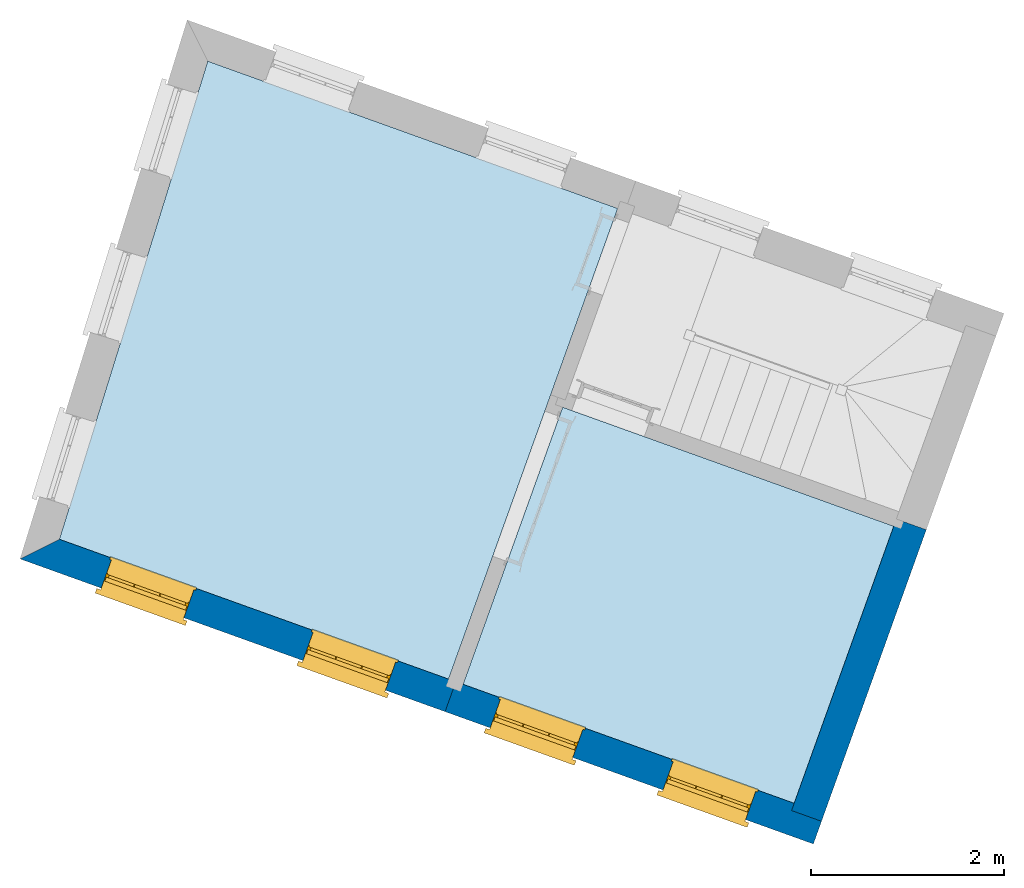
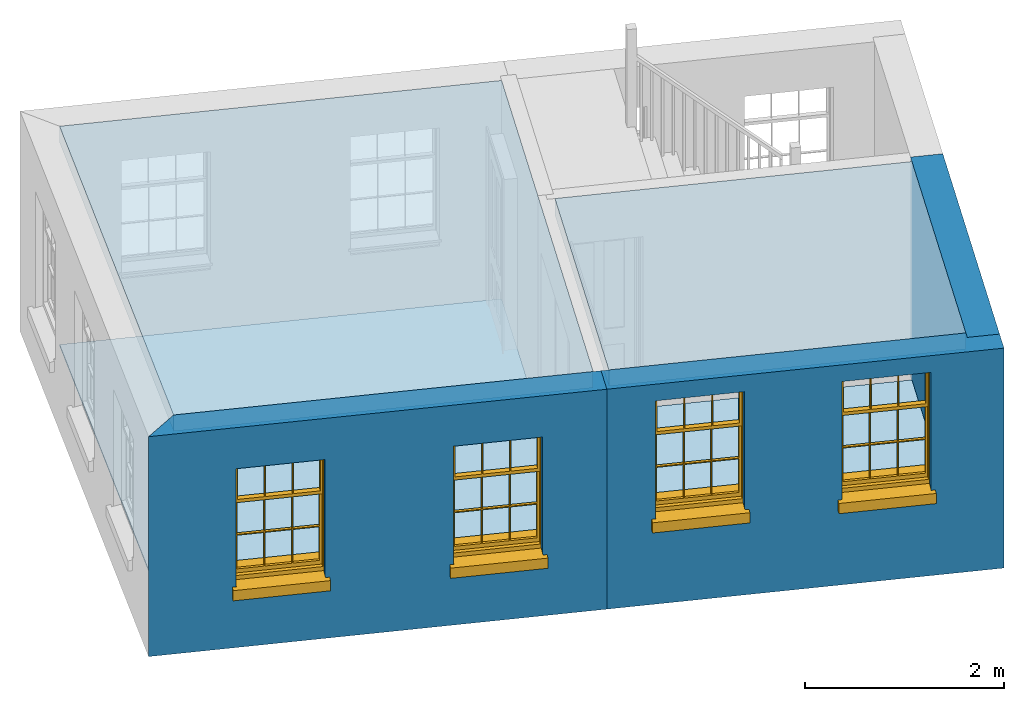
# One storey, part 1 of 4: 4 slabs, 4 windows, 3 walls, 4 openings.
"""IFC4 building model written with IfcOpenShell, lengths in metres."""

from ifc_helpers import new_model, si_unit, frame, origin, origin_with_axes, place, context, subcontext, project, spatial, polyline, outline, extrude, faceted_brep, source, transform, mapped, material, layer, layer_set, layer_usage, type_object, type_shapes, element, fill, save


model = new_model("IFC4")

# Units and contexts
model_context = context("Model", 3, world=origin_with_axes())
body_context = subcontext(model_context, "Body", "Model", "MODEL_VIEW")
ifc_project = project(units=[si_unit("PLANEANGLEUNIT", "RADIAN"), si_unit("MASSUNIT", "GRAM", prefix="KILO"), si_unit("FORCEUNIT", "NEWTON", prefix="KILO"), si_unit("LENGTHUNIT", "METRE"), si_unit("AREAUNIT", "SQUARE_METRE"), si_unit("VOLUMEUNIT", "CUBIC_METRE")], contexts=[model_context, model_context])

# Sites, building, storey
site_1_placement = place(None, origin_with_axes())
site_1 = spatial("IfcSite", under=ifc_project, at=site_1_placement, Name="Tamar")
site_2_placement = place(site_1_placement, origin_with_axes())
site_2 = spatial("IfcSite", under=site_1, at=site_2_placement, Name="Site plot-21", CompositionType="ELEMENT")
building_placement = place(None, origin_with_axes())
building = spatial("IfcBuilding", under=site_2, at=building_placement, Name="Building plot-21", CompositionType="ELEMENT")
storey_placement = place(None, frame((0.0, 0.0, 29.6), z_axis=(0.0, 0.0, 1.0), x_axis=(1.0, 0.0, 0.0)))
storey = spatial("IfcBuildingStorey", under=building, at=storey_placement, Name="plot-21 1", CompositionType="ELEMENT", Elevation=29.6)

# Slabs
slab_1_placement = place(storey_placement, frame((258.148824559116, 284.098444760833, 2.5)))
element("IfcSlab", 1, at=slab_1_placement, inside=storey, Name="My Slab", ObjectType="Slab", PredefinedType="FLOOR", context=body_context, shape_type="SweptSolid", body=[
    extrude(outline(polyline([(0.0, 0.0), (-1.03236079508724, -2.87298841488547), (2.40093777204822, -4.10668738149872), (3.43329856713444, -1.23369896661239), (0.0, 0.0)])), origin_with_axes(), (0.0, 0.0, 1.0), 0.2),
])
slab_2_placement = place(storey_placement, frame((258.148824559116, 284.098444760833, 0.0)))
element("IfcSlab", 2, at=slab_2_placement, inside=storey, Name="My Slab", ObjectType="Slab", PredefinedType="FLOOR", context=body_context, shape_type="SweptSolid", body=[
    extrude(outline(polyline([(0.0, 0.0), (-1.03236079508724, -2.87298841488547), (2.40093777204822, -4.10668738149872), (3.43329856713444, -1.23369896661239), (0.0, 0.0)])), origin_with_axes(), (0.0, 0.0, 1.0), 0.02),
])
slab_3_placement = place(storey_placement, frame((256.965889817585, 281.279562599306, 2.5)))
element("IfcSlab", 3, at=slab_3_placement, inside=storey, Name="My Slab", ObjectType="Slab", PredefinedType="FLOOR", context=body_context, shape_type="SweptSolid", body=[
    extrude(outline(polyline([(0.0, 0.0), (1.75357301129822, 4.88007193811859), (-2.49721772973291, 6.40752317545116), (-4.03548595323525, 1.45008502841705), (0.0, 0.0)])), origin_with_axes(), (0.0, 0.0, 1.0), 0.2),
])
slab_4_placement = place(storey_placement, frame((256.965889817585, 281.279562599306, 0.0)))
element("IfcSlab", 4, at=slab_4_placement, inside=storey, Name="My Slab", ObjectType="Slab", PredefinedType="FLOOR", context=body_context, shape_type="SweptSolid", body=[
    extrude(outline(polyline([(0.0, 0.0), (1.75357301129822, 4.88007193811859), (-2.49721772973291, 6.40752317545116), (-4.03548595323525, 1.45008502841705), (0.0, 0.0)])), origin_with_axes(), (0.0, 0.0, 1.0), 0.02),
])

# Wall, openings, windows
ifc_material_1 = material(Name="Masonry")
ifc_layer_1 = layer(ifc_material_1, 0.33, ventilated=False)
ifc_layer_set_1 = layer_set([ifc_layer_1], Name="exterior_0.08_0.25")
ifc_layer_usage_1 = layer_usage(ifc_layer_set_1, "AXIS2", "POSITIVE", -0.25)
wall_type_1 = type_object("IfcWallType", Name="exterior_0.08_0.25", PredefinedType="SOLIDWALL", material=ifc_layer_set_1)
wall_1_placement = place(storey_placement, frame((252.8313121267, 282.680246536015, 0.0), z_axis=(0.0, 0.0, 1.0), x_axis=(0.941087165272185, -0.338164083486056, 0.0)))
wall_1 = element("IfcWall", 5, at=wall_1_placement, inside=storey, type_object=wall_type_1, material=ifc_layer_usage_1, Name="exterior", context=body_context, shape_type="SweptSolid", body=[
    extrude(outline(polyline([(0.0765482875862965, 0.0799999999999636), (-0.239213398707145, -0.249999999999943), (4.44465899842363, -0.250000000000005), (4.44465899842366, 0.0799999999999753), (0.0765482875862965, 0.0799999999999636)])), origin_with_axes(), (0.0, 0.0, 1.0), 2.7),
])
opening_1_placement = place(wall_1_placement, frame((0.65616474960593, 0.0, 0.75)))
opening_1 = element("IfcOpeningElement", 6, at=opening_1_placement, cuts=wall_1, Name="My Opening", ObjectType="Opening", context=body_context, shape_type="SweptSolid", body=[
    extrude(outline(polyline([(0.0, -0.270000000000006), (0.909999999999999, -0.27000000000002), (0.909999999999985, 1.09999999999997), (-1.40998324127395e-14, 1.09999999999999), (0.0, -0.270000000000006)])), origin_with_axes(), (0.0, 0.0, 1.0), 1.445),
])
opening_2_placement = place(wall_1_placement, frame((2.87849424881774, 0.0, 0.75)))
opening_2 = element("IfcOpeningElement", 7, at=opening_2_placement, cuts=wall_1, Name="My Opening", ObjectType="Opening", context=body_context, shape_type="SweptSolid", body=[
    extrude(outline(polyline([(0.0, -0.270000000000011), (0.910000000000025, -0.270000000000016), (0.910000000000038, 1.09999999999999), (-1.37667655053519e-14, 1.09999999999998), (0.0, -0.270000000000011)])), origin_with_axes(), (0.0, 0.0, 1.0), 1.445),
])
window_type = type_object("IfcWindowType", Name="sash_shorter", PartitioningType="DOUBLE_PANEL_HORIZONTAL", PredefinedType="NOTDEFINED")
shared_shape = source(origin(), body_context, "Body", "Brep", [
    faceted_brep([(0.876875, 0.145, 0.999097), (0.876875, 0.145, 1.411875), (0.9, 0.145, 1.435), (0.033125, 0.145, 1.411875), (0.033125, 0.145, 0.999097), (0.01, 0.145, 1.435), (0.033125, 0.115, 1.411875), (0.01, 0.115, 1.435), (0.033125, 0.115, 0.999097), (0.876875, 0.115, 1.411875), (0.876875, 0.115, 0.999097), (0.9, 0.115, 1.435), (0.033125, 0.145, 0.960972), (0.01, 0.145, 0.960972), (0.033125, 0.145, 0.548195), (0.876875, 0.145, 0.960972), (0.876875, 0.145, 0.548195), (0.9, 0.145, 0.960972), (0.876875, 0.145, 0.538195), (0.876875, 0.145, 0.125417), (0.9, 0.145, 0.077167), (0.033125, 0.145, 0.125417), (0.033125, 0.145, 0.538195), (0.01, 0.145, 0.077167), (0.9, 0.115, 0.960972), (0.01, 0.115, 0.960972), (-0.0425, 0.0, 0.01), (-0.0425, -0.05, 0.001667), (0.0, 0.0, 0.01), (0.9525, 0.0, 0.01), (0.91, 0.0, 0.01), (0.9525, -0.05, 0.001667), (-0.02, 0.33, 0.077167), (0.0, 0.33, 0.077167), (-0.02, 0.36, 0.077167), (0.0, 0.19, 0.077167), (0.01, 0.19, 0.077167), (0.91, 0.19, 0.077167), (0.91, 0.33, 0.077167), (0.9, 0.19, 0.077167), (0.93, 0.33, 0.077167), (0.93, 0.36, 0.077167), (0.01, 0.145, 0.999097), (0.01, 0.175, 0.999097), (0.9, 0.145, 0.999097), (0.9, 0.175, 0.999097), (0.876875, 0.175, 0.125417), (0.876875, 0.175, 0.538195), (0.9, 0.175, 0.077167), (0.876875, 0.175, 0.548195), (0.876875, 0.175, 0.960972), (0.033125, 0.175, 0.125417), (0.01, 0.175, 0.077167), (0.033125, 0.175, 0.538195), (0.033125, 0.175, 0.960972), (0.033125, 0.175, 0.548195), (-0.02, 0.33, 0.052167), (-0.02, 0.36, 0.052167), (0.93, 0.36, 0.052167), (0.93, 0.33, 0.052167), (0.91, 0.33, 0.052167), (0.0, 0.33, 0.052167), (0.91, 0.1, 0.026667), (0.0, 0.1, 0.026667), (-0.0425, -0.05, -0.123333), (0.9525, -0.05, -0.123333), (-0.0425, 0.0, -0.123333), (0.9525, 0.0, -0.123333), (0.01, 0.19, 1.435), (0.9, 0.19, 1.435), (0.0, 0.19, 1.445), (0.91, 0.19, 1.445), (0.01, 0.1, 0.077167), (0.9, 0.1, 0.077167), (0.592292, 0.145, 0.125417), (0.592292, 0.175, 0.125417), (0.317708, 0.175, 0.125417), (0.317708, 0.145, 0.125417), (0.592292, 0.145, 0.548195), (0.317708, 0.145, 0.548195), (0.317708, 0.145, 0.538195), (0.592292, 0.145, 0.538195), (0.592292, 0.175, 0.548195), (0.317708, 0.175, 0.548195), (0.602292, 0.175, 0.548195), (0.602292, 0.145, 0.548195), (0.317708, 0.175, 0.538195), (0.307708, 0.175, 0.125417), (0.307708, 0.175, 0.538195), (0.602292, 0.175, 0.538195), (0.602292, 0.175, 0.125417), (0.592292, 0.175, 0.538195), (0.307708, 0.175, 0.548195), (0.317708, 0.175, 0.960972), (0.307708, 0.175, 0.960972), (0.602292, 0.175, 0.960972), (0.592292, 0.175, 0.960972), (0.307708, 0.145, 0.538195), (0.307708, 0.145, 0.125417), (0.307708, 0.145, 0.548195), (0.307708, 0.145, 0.960972), (0.592292, 0.145, 0.960972), (0.317708, 0.145, 0.960972), (0.602292, 0.145, 0.960972), (0.602292, 0.145, 0.538195), (0.602292, 0.145, 0.125417), (0.317708, 0.115, 1.411875), (0.307708, 0.115, 1.411875), (0.307708, 0.115, 0.999097), (0.317708, 0.115, 0.999097), (0.602292, 0.115, 1.411875), (0.592292, 0.115, 1.411875), (0.592292, 0.115, 0.999097), (0.602292, 0.115, 0.999097), (0.317708, 0.145, 0.999097), (0.307708, 0.145, 0.999097), (0.307708, 0.145, 1.411875), (0.317708, 0.145, 1.411875), (0.602292, 0.145, 0.999097), (0.592292, 0.145, 0.999097), (0.592292, 0.145, 1.411875), (0.602292, 0.145, 1.411875), (0.91, 0.1, 1.445), (0.9, 0.1, 1.435), (0.01, 0.1, 1.435), (0.0, 0.1, 1.445), (0.91, 0.0, 0.0), (0.0, 0.0, 0.0), (0.91, 0.33, 0.0), (0.0, 0.33, 0.0)], [[[0, 1, 2]], [[3, 4, 5]], [[6, 7, 8]], [[9, 10, 11]], [[12, 13, 14]], [[15, 16, 17]], [[18, 19, 20]], [[21, 22, 23]], [[24, 15, 17]], [[13, 12, 25]], [[26, 27, 28]], [[29, 30, 31]], [[32, 33, 34]], [[35, 36, 33]], [[37, 38, 39]], [[40, 41, 38]], [[42, 4, 43]], [[44, 45, 0]], [[46, 47, 48]], [[49, 50, 45]], [[51, 52, 53]], [[54, 55, 43]], [[38, 33, 36, 39]], [[41, 34, 33, 38]], [[56, 32, 34, 57]], [[57, 34, 41, 58]], [[58, 41, 40, 59]], [[57, 58, 60, 61]], [[52, 48, 39, 36]], [[62, 63, 28, 30]], [[27, 31, 30, 28]], [[27, 64, 65, 31]], [[66, 67, 65, 64]], [[2, 5, 68, 69]], [[68, 70, 71, 69]], [[20, 23, 72, 73]], [[73, 72, 63, 62]], [[74, 75, 76, 77]], [[78, 79, 80, 81]], [[78, 82, 83, 79]], [[16, 49, 84, 85]], [[86, 76, 87, 88]], [[89, 90, 75, 91]], [[92, 88, 53, 55]], [[82, 91, 86, 83]], [[93, 83, 92, 94]], [[95, 84, 82, 96]], [[89, 84, 49, 47]], [[97, 88, 87, 98]], [[22, 53, 88, 97]], [[81, 91, 75, 74]], [[80, 86, 91, 81]], [[77, 76, 86, 80]], [[99, 92, 55, 14]], [[100, 94, 92, 99]], [[101, 96, 82, 78]], [[79, 83, 93, 102]], [[85, 84, 95, 103]], [[104, 89, 47, 18]], [[105, 90, 89, 104]], [[104, 18, 16, 85]], [[80, 97, 98, 77]], [[104, 81, 74, 105]], [[103, 101, 78, 85]], [[99, 14, 22, 97]], [[102, 100, 99, 79]], [[106, 107, 108, 109]], [[110, 111, 112, 113]], [[114, 115, 116, 117]], [[118, 119, 120, 121]], [[107, 116, 115, 108]], [[111, 120, 119, 112]], [[109, 114, 117, 106]], [[113, 118, 121, 110]], [[85, 78, 81, 104]], [[84, 89, 91, 82]], [[83, 86, 88, 92]], [[79, 99, 97, 80]], [[109, 112, 119, 114]], [[102, 93, 96, 101]], [[106, 117, 120, 111]], [[98, 87, 51, 21]], [[6, 3, 116, 107]], [[110, 121, 1, 9]], [[19, 46, 90, 105]], [[26, 66, 64, 27]], [[29, 31, 65, 67]], [[25, 24, 112, 109]], [[11, 7, 106, 111]], [[75, 48, 52, 76]], [[43, 45, 96, 93]], [[45, 43, 114, 119]], [[5, 2, 120, 117]], [[24, 25, 102, 101]], [[42, 5, 4]], [[2, 44, 0]], [[49, 45, 48, 47]], [[52, 43, 55, 53]], [[14, 13, 23, 22]], [[20, 17, 16, 18]], [[24, 11, 10]], [[25, 8, 7]], [[8, 4, 3, 6]], [[9, 1, 0, 10]], [[15, 50, 49, 16]], [[18, 47, 46, 19]], [[21, 51, 53, 22]], [[14, 55, 54, 12]], [[44, 2, 69, 45]], [[68, 5, 42, 43]], [[36, 35, 70, 68]], [[39, 69, 71, 37]], [[62, 122, 123, 73]], [[63, 72, 124, 125]], [[8, 108, 115, 4]], [[113, 10, 0, 118]], [[94, 100, 12, 54]], [[17, 20, 73, 24]], [[72, 23, 13, 25]], [[52, 36, 68, 43]], [[69, 39, 48, 45]], [[11, 24, 73, 123]], [[7, 124, 72, 25]], [[23, 77, 98]], [[98, 21, 23]], [[105, 74, 20]], [[20, 19, 105]], [[20, 74, 77, 23]], [[113, 112, 24]], [[24, 10, 113]], [[25, 109, 108]], [[108, 8, 25]], [[110, 9, 11]], [[11, 111, 110]], [[7, 6, 107]], [[107, 106, 7]], [[5, 117, 116]], [[116, 3, 5]], [[121, 120, 2]], [[2, 1, 121]], [[11, 123, 124, 7]], [[122, 125, 124, 123]], [[43, 93, 94]], [[94, 54, 43]], [[96, 45, 95]], [[50, 95, 45]], [[15, 103, 95, 50]], [[48, 75, 90]], [[90, 46, 48]], [[87, 76, 52]], [[52, 51, 87]], [[103, 15, 24]], [[24, 101, 103]], [[100, 102, 25]], [[25, 12, 100]], [[115, 114, 43]], [[43, 4, 115]], [[118, 0, 45]], [[45, 119, 118]], [[71, 70, 125, 122]], [[70, 35, 63, 125]], [[122, 62, 37, 71]], [[126, 67, 66, 127]], [[60, 58, 59]], [[38, 60, 59, 40]], [[61, 56, 57]], [[32, 56, 61, 33]], [[61, 60, 128, 129]], [[62, 60, 38, 37]], [[126, 128, 60, 62]], [[33, 61, 63, 35]], [[61, 129, 127, 63]], [[128, 126, 127, 129]], [[28, 127, 66, 26]], [[63, 127, 28]], [[29, 67, 126, 30]], [[30, 126, 62]]]),
])
type_shapes(window_type, [shared_shape])
window_1_placement = place(storey_placement, frame((253.357516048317, 282.204261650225, 0.75), z_axis=(0.0, 0.0, 1.0), x_axis=(0.856389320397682, -0.307729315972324, 0.0)))
window_1 = element("IfcWindow", 8, at=window_1_placement, inside=storey, type_object=window_type, Name="living outside window", OverallHeight=1.445, OverallWidth=0.91, context=body_context, shape_type="MappedRepresentation", body=[
    mapped(shared_shape, transform((0.0, 0.0, 0.0), scale=1.0)),
])
fill(opening_1, window_1)
window_2_placement = place(storey_placement, frame((255.448921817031, 281.45274963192, 0.75), z_axis=(0.0, 0.0, 1.0), x_axis=(0.85638932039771, -0.307729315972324, 0.0)))
window_2 = element("IfcWindow", 9, at=window_2_placement, inside=storey, type_object=window_type, Name="living outside window", OverallHeight=1.445, OverallWidth=0.91, context=body_context, shape_type="MappedRepresentation", body=[
    mapped(shared_shape, transform((0.0, 0.0, 0.0), scale=1.0)),
])
fill(opening_2, window_2)

wall_2_placement = place(storey_placement, frame((257.014123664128, 281.177222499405, 0.0), z_axis=(0.0, 0.0, 1.0), x_axis=(0.94108716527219, -0.33816408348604, 0.0)))
wall_2 = element("IfcWall", 10, at=wall_2_placement, inside=storey, type_object=wall_type_1, material=ifc_layer_usage_1, Name="exterior", context=body_context, shape_type="SweptSolid", body=[
    extrude(outline(polyline([(4.7477713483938e-15, 0.0799999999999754), (-3.09101243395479e-14, -0.250000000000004), (4.05822589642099, -0.249999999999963), (4.05822589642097, 0.0799999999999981), (4.7477713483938e-15, 0.0799999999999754)])), origin_with_axes(), (0.0, 0.0, 1.0), 2.7),
])
opening_3_placement = place(wall_2_placement, frame((0.497056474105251, 0.0, 1.05)))
opening_3 = element("IfcOpeningElement", 11, at=opening_3_placement, cuts=wall_2, Name="My Opening", ObjectType="Opening", context=body_context, shape_type="SweptSolid", body=[
    extrude(outline(polyline([(0.0, -0.270000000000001), (0.909999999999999, -0.27000000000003), (0.910000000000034, 1.09999999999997), (3.55826479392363e-14, 1.1), (0.0, -0.270000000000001)])), origin_with_axes(), (0.0, 0.0, 1.0), 1.445),
])
opening_4_placement = place(wall_2_placement, frame((2.40116942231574, 0.0, 1.05)))
opening_4 = element("IfcOpeningElement", 12, at=opening_4_placement, cuts=wall_2, Name="My Opening", ObjectType="Opening", context=body_context, shape_type="SweptSolid", body=[
    extrude(outline(polyline([(0.0, -0.270000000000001), (0.909999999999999, -0.27000000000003), (0.910000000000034, 1.09999999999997), (3.59712259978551e-14, 1.1), (0.0, -0.270000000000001)])), origin_with_axes(), (0.0, 0.0, 1.0), 1.445),
])
window_3_placement = place(storey_placement, frame((257.390592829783, 280.755042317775, 1.05), z_axis=(0.0, 0.0, 1.0), x_axis=(0.856389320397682, -0.307729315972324, 0.0)))
window_3 = element("IfcWindow", 13, at=window_3_placement, inside=storey, type_object=window_type, Name="kitchen outside window", OverallHeight=1.445, OverallWidth=0.91, context=body_context, shape_type="MappedRepresentation", body=[
    mapped(shared_shape, transform((0.0, 0.0, 0.0), scale=1.0)),
])
fill(opening_3, window_3)
window_4_placement = place(storey_placement, frame((259.182529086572, 280.111139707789, 1.05), z_axis=(0.0, 0.0, 1.0), x_axis=(0.856389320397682, -0.307729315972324, 0.0)))
window_4 = element("IfcWindow", 14, at=window_4_placement, inside=storey, type_object=window_type, Name="kitchen outside window", OverallHeight=1.445, OverallWidth=0.91, context=body_context, shape_type="MappedRepresentation", body=[
    mapped(shared_shape, transform((0.0, 0.0, 0.0), scale=1.0)),
])
fill(opening_4, window_4)

# Wall
ifc_material_2 = material(Name="Masonry")
ifc_layer_2 = layer(ifc_material_2, 0.33, ventilated=False)
ifc_layer_set_2 = layer_set([ifc_layer_2], Name="party_0.08_0.25")
ifc_layer_usage_2 = layer_usage(ifc_layer_set_2, "AXIS2", "POSITIVE", -0.25)
wall_type_2 = type_object("IfcWallType", Name="party_0.08_0.25", PredefinedType="SOLIDWALL", material=ifc_layer_set_2)
wall_3_placement = place(storey_placement, frame((260.597996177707, 279.889417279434, 0.0), z_axis=(0.0, 0.0, 1.0), x_axis=(0.33816408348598, 0.941087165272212, 0.0)))
element("IfcWall", 15, at=wall_3_placement, inside=storey, type_object=wall_type_2, material=ifc_layer_usage_2, Name="party", context=body_context, shape_type="SweptSolid", body=[
    extrude(outline(polyline([(9.84591547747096e-15, 0.0799999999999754), (6.67664623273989e-15, -0.249999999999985), (3.2128398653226, -0.249999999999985), (3.2128398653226, 0.0799999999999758), (9.84591547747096e-15, 0.0799999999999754)])), origin_with_axes(), (0.0, 0.0, 1.0), 2.7),
])

save(model, "model.ifc")
